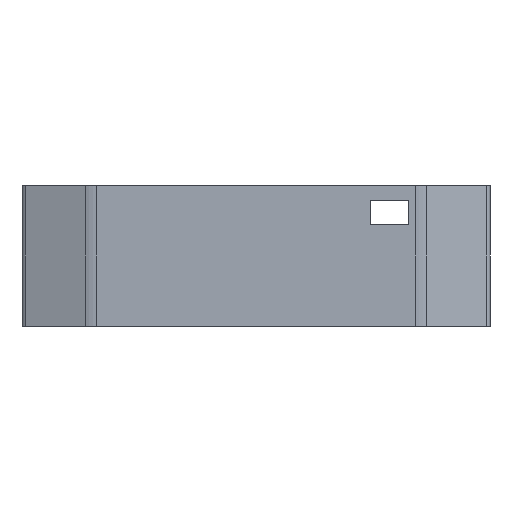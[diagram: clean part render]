
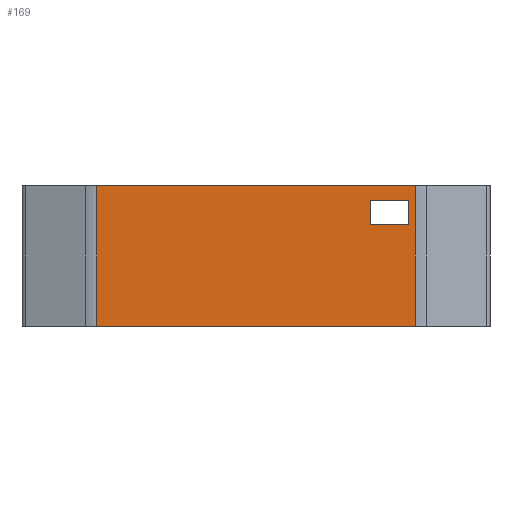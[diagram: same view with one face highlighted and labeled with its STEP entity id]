
A CAD part, front view. The second image highlights one B-rep face of the part: STEP entity #169.
In plain terms, the highlighted planar face has unit normal (0, -1, 0).
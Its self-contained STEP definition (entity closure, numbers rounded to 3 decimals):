
#151=FACE_BOUND('',#369,.T.);
#152=FACE_BOUND('',#370,.T.);
#169=ADVANCED_FACE('',(#151,#152),#243,.T.);
#243=PLANE('',#1577);
#369=EDGE_LOOP('',(#497,#498,#499,#500));
#370=EDGE_LOOP('',(#501,#502,#503,#504));
#497=ORIENTED_EDGE('',*,*,#1053,.F.);
#498=ORIENTED_EDGE('',*,*,#1054,.F.);
#499=ORIENTED_EDGE('',*,*,#1055,.F.);
#500=ORIENTED_EDGE('',*,*,#1012,.F.);
#501=ORIENTED_EDGE('',*,*,#1056,.T.);
#502=ORIENTED_EDGE('',*,*,#1057,.T.);
#503=ORIENTED_EDGE('',*,*,#1058,.T.);
#504=ORIENTED_EDGE('',*,*,#1059,.T.);
#872=VERTEX_POINT('',#2087);
#873=VERTEX_POINT('',#2089);
#909=VERTEX_POINT('',#2170);
#910=VERTEX_POINT('',#2172);
#911=VERTEX_POINT('',#2175);
#912=VERTEX_POINT('',#2176);
#913=VERTEX_POINT('',#2178);
#914=VERTEX_POINT('',#2180);
#1012=EDGE_CURVE('',#872,#873,#1222,.T.);
#1053=EDGE_CURVE('',#909,#872,#1261,.T.);
#1054=EDGE_CURVE('',#910,#909,#1262,.T.);
#1055=EDGE_CURVE('',#873,#910,#1263,.T.);
#1056=EDGE_CURVE('',#911,#912,#1264,.T.);
#1057=EDGE_CURVE('',#912,#913,#1265,.T.);
#1058=EDGE_CURVE('',#913,#914,#1266,.T.);
#1059=EDGE_CURVE('',#914,#911,#1267,.T.);
#1222=LINE('',#2088,#1398);
#1261=LINE('',#2169,#1437);
#1262=LINE('',#2171,#1438);
#1263=LINE('',#2173,#1439);
#1264=LINE('',#2174,#1440);
#1265=LINE('',#2177,#1441);
#1266=LINE('',#2179,#1442);
#1267=LINE('',#2181,#1443);
#1398=VECTOR('',#1688,1.);
#1437=VECTOR('',#1739,1.);
#1438=VECTOR('',#1740,1.);
#1439=VECTOR('',#1741,1.);
#1440=VECTOR('',#1742,1.);
#1441=VECTOR('',#1743,1.);
#1442=VECTOR('',#1744,1.);
#1443=VECTOR('',#1745,1.);
#1577=AXIS2_PLACEMENT_3D('',#2182,#1746,#1747);
#1688=DIRECTION('',(0.,0.,1.));
#1739=DIRECTION('',(1.,0.,0.));
#1740=DIRECTION('',(0.,0.,-1.));
#1741=DIRECTION('',(-1.,0.,0.));
#1742=DIRECTION('',(0.,0.,-1.));
#1743=DIRECTION('',(1.,0.,0.));
#1744=DIRECTION('',(0.,0.,1.));
#1745=DIRECTION('',(-1.,0.,0.));
#1746=DIRECTION('',(0.,-1.,0.));
#1747=DIRECTION('',(0.,0.,-1.));
#2087=CARTESIAN_POINT('',(195.121,-11.,50.5));
#2088=CARTESIAN_POINT('',(195.121,-11.,0.));
#2089=CARTESIAN_POINT('',(195.121,-11.,57.5));
#2169=CARTESIAN_POINT('',(219.5,-11.,50.5));
#2170=CARTESIAN_POINT('',(183.621,-11.,50.5));
#2171=CARTESIAN_POINT('',(183.621,-11.,0.));
#2172=CARTESIAN_POINT('',(183.621,-11.,57.5));
#2173=CARTESIAN_POINT('',(219.5,-11.,57.5));
#2174=CARTESIAN_POINT('',(101.879,-11.,0.));
#2175=CARTESIAN_POINT('',(101.879,-11.,62.));
#2176=CARTESIAN_POINT('',(101.879,-11.,20.));
#2177=CARTESIAN_POINT('',(219.5,-11.,20.));
#2178=CARTESIAN_POINT('',(197.121,-11.,20.));
#2179=CARTESIAN_POINT('',(197.121,-11.,51.));
#2180=CARTESIAN_POINT('',(197.121,-11.,62.));
#2181=CARTESIAN_POINT('',(219.5,-11.,62.));
#2182=CARTESIAN_POINT('',(219.5,-11.,0.));
